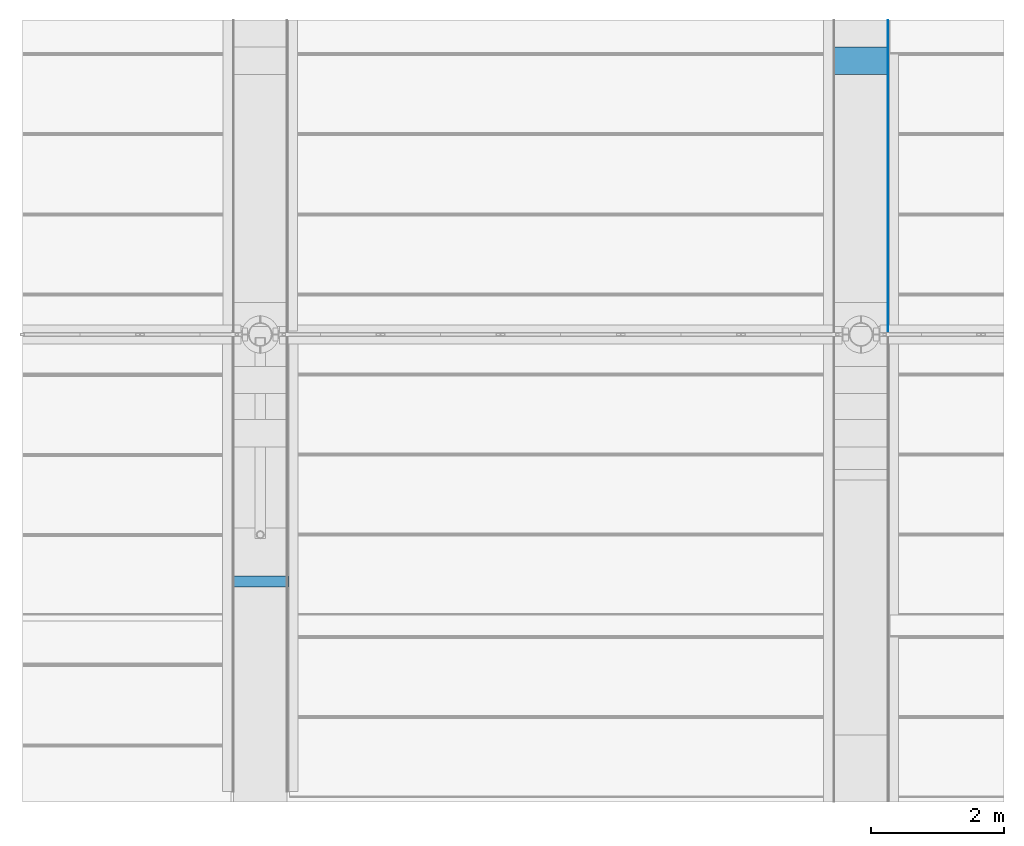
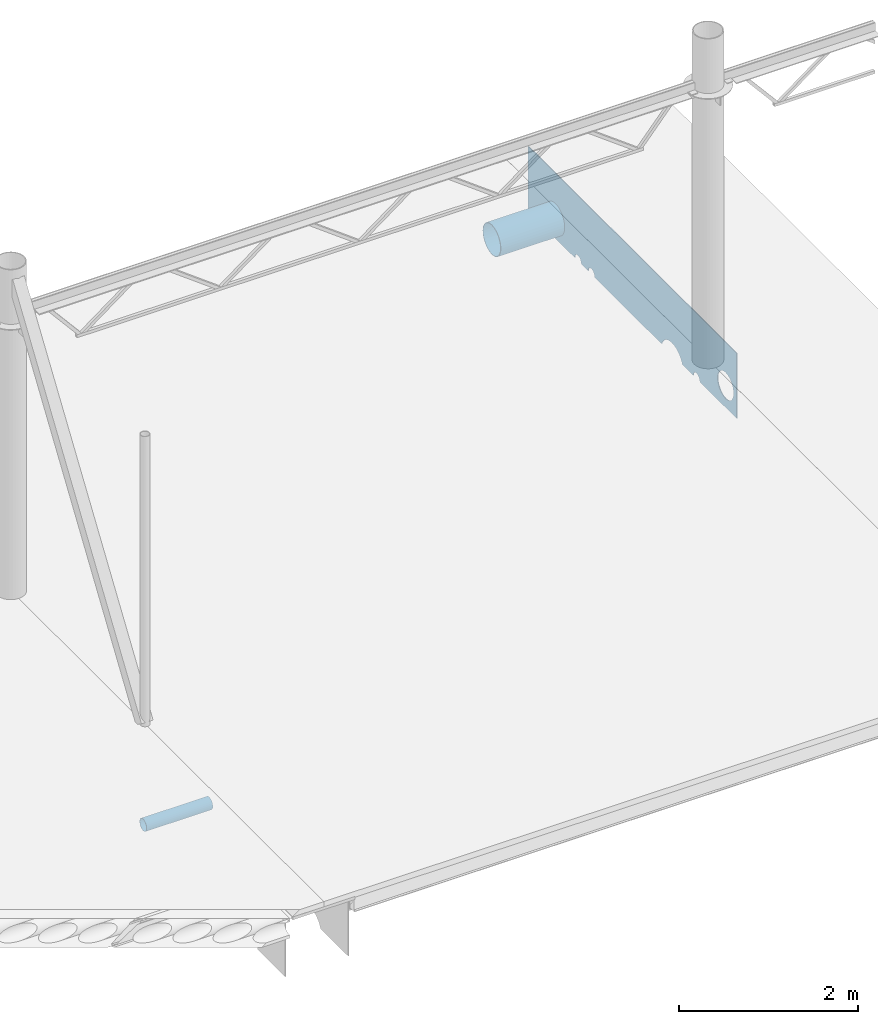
# One storey, part 12 of 21: 3 beams.
"""IFC2X3 building model written with IfcOpenShell, lengths in millimetres."""

from ifc_helpers import new_model, entity, si_unit, converted_unit, derived_unit, direction, frame, origin_with_axes, place, context, subcontext, project, spatial, faceted_brep, material, type_object, element, save


model = new_model("IFC2X3")

# Units and contexts
model_context = context("Model", 3, precision=0.01, world=frame((0.0, 4.29681676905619e-09, 0.0)), true_north=direction((4.01073788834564e-13, 1.0)))
plan_context = context("Plan", 3, precision=0.01, world=frame((0.0, 4.29681676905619e-09, 0.0)), true_north=direction((4.01073788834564e-13, 1.0)))
body_context = subcontext(model_context, "Body", "Model", "MODEL_VIEW")
ifc_project = project(units=[converted_unit("PLANEANGLEUNIT", "DEGREE", entity("IfcPositiveLengthMeasure", 0.0174532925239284), si_unit("PLANEANGLEUNIT", "RADIAN"), dimensions=[0, 0, 0, 0, 0, 0, 0]), si_unit("AREAUNIT", "SQUARE_METRE"), si_unit("LENGTHUNIT", "METRE", prefix="MILLI"), si_unit("MASSUNIT", "GRAM", prefix="KILO"), si_unit("POWERUNIT", "WATT"), si_unit("PRESSUREUNIT", "PASCAL", prefix="KILO"), si_unit("FORCEUNIT", "NEWTON", prefix="KILO"), si_unit("ELECTRICVOLTAGEUNIT", "VOLT"), si_unit("ELECTRICCURRENTUNIT", "AMPERE"), si_unit("THERMODYNAMICTEMPERATUREUNIT", "DEGREE_CELSIUS"), si_unit("TIMEUNIT", "SECOND"), si_unit("VOLUMEUNIT", "CUBIC_METRE"), derived_unit("LINEARVELOCITYUNIT", [(si_unit("LENGTHUNIT", "METRE"), 1), (si_unit("TIMEUNIT", "SECOND"), -1)]), derived_unit("VOLUMETRICFLOWRATEUNIT", [(si_unit("VOLUMEUNIT", "CUBIC_METRE"), 1), (si_unit("TIMEUNIT", "SECOND"), -1)]), derived_unit("THERMALTRANSMITTANCEUNIT", [(si_unit("POWERUNIT", "WATT"), 1), (si_unit("THERMODYNAMICTEMPERATUREUNIT", "KELVIN"), -1), (si_unit("AREAUNIT", "SQUARE_METRE"), -1)]), derived_unit("SOUNDPRESSUREUNIT", [(si_unit("PRESSUREUNIT", "PASCAL"), 1)])], contexts=[model_context, plan_context])

# Site, building, storey
site_placement = place(None, frame((0.0, -4.29681676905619e-09, 0.0), z_axis=(0.0, 0.0, 1.0), x_axis=(1.0, 0.0, 0.0)))
site = spatial("IfcSite", under=ifc_project, at=site_placement, Name="Gardermoen", CompositionType="ELEMENT")
building_placement = place(site_placement, frame((0.0, 4.29681676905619e-09, 0.0), z_axis=(0.0, 0.0, 1.0), x_axis=(1.0, 0.0, 0.0)))
building = spatial("IfcBuilding", under=site, at=building_placement, Name="TS", CompositionType="ELEMENT")
storey_placement = place(building_placement, origin_with_axes())
storey = spatial("IfcBuildingStorey", under=building, at=storey_placement, Name="F", CompositionType="ELEMENT", Elevation=0.0)

# Beams
ifc_material = material(Name="STEEL/S355")
beam_type_1 = type_object("IfcBeamType", Name="O160*3", PredefinedType="NOTDEFINED")
beam_1_placement = place(storey_placement, frame((718427.0, 437800.0, 210070.0), z_axis=(0.0, 0.0, 1.0), x_axis=(-0.999999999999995, -9.99999902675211e-08, 0.0)))
element("IfcBeam", 1, at=beam_1_placement, inside=storey, type_object=beam_type_1, material=ifc_material, Name="STÅLBJELKE", ObjectType="O160*3", context=body_context, shape_type="Brep", body=[
    faceted_brep([(0.0, -77.0, 0.0), (0.0, -74.3762886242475, 19.9290664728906), (854.0, -74.3762886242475, 19.9290664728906), (854.0, -77.0, 0.0), (0.0, -66.6839560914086, 38.5), (854.0, -66.6839560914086, 38.5), (0.0, -54.4472221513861, 54.447222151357), (854.0, -54.4472221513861, 54.447222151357), (0.0, -38.5, 66.6839560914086), (854.0, -38.5, 66.6839560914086), (0.0, -19.9290664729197, 74.3762886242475), (854.0, -19.9290664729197, 74.3762886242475), (0.0, 0.0, 77.0), (854.0, 0.0, 77.0), (0.0, 19.9290664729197, 74.3762886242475), (854.0, 19.9290664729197, 74.3762886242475), (0.0, 38.5, 66.6839560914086), (854.0, 38.5, 66.6839560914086), (0.0, 54.4472221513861, 54.447222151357), (854.0, 54.4472221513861, 54.447222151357), (0.0, 66.6839560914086, 38.5), (854.0, 66.6839560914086, 38.5), (0.0, 74.3762886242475, 19.9290664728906), (854.0, 74.3762886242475, 19.9290664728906), (0.0, 77.0, 0.0), (854.0, 77.0, 0.0), (0.0, 74.3762886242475, -19.9290664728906), (854.0, 74.3762886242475, -19.9290664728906), (0.0, 66.6839560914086, -38.5), (854.0, 66.6839560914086, -38.5), (0.0, 54.4472221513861, -54.447222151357), (854.0, 54.4472221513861, -54.447222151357), (0.0, 38.5, -66.6839560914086), (854.0, 38.5, -66.6839560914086), (0.0, 19.9290664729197, -74.3762886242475), (854.0, 19.9290664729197, -74.3762886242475), (0.0, 0.0, -77.0), (854.0, 0.0, -77.0), (0.0, -19.9290664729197, -74.3762886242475), (854.0, -19.9290664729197, -74.3762886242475), (0.0, -38.5, -66.6839560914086), (854.0, -38.5, -66.6839560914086), (0.0, -54.4472221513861, -54.447222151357), (854.0, -54.4472221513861, -54.447222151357), (0.0, -66.6839560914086, -38.5), (854.0, -66.6839560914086, -38.5), (0.0, -74.3762886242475, -19.9290664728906), (854.0, -74.3762886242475, -19.9290664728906), (0.0, -80.0, 0.0), (0.0, -77.2740661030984, -20.7055236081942), (854.0, -77.2740661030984, -20.7055236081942), (854.0, -80.0, 0.0), (0.0, -69.2820323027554, -40.0), (854.0, -69.2820323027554, -40.0), (0.0, -56.5685424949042, -56.5685424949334), (854.0, -56.5685424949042, -56.5685424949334), (0.0, -40.0, -69.2820323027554), (854.0, -40.0, -69.2820323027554), (0.0, -20.7055236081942, -77.2740661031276), (854.0, -20.7055236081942, -77.2740661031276), (0.0, 0.0, -80.0), (854.0, 0.0, -80.0), (0.0, 20.7055236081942, -77.2740661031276), (854.0, 20.7055236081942, -77.2740661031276), (0.0, 40.0, -69.2820323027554), (854.0, 40.0, -69.2820323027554), (0.0, 56.5685424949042, -56.5685424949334), (854.0, 56.5685424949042, -56.5685424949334), (0.0, 69.2820323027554, -40.0), (854.0, 69.2820323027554, -40.0), (0.0, 77.2740661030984, -20.7055236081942), (854.0, 77.2740661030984, -20.7055236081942), (0.0, 80.0, 0.0), (854.0, 80.0, 0.0), (0.0, 77.2740661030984, 20.7055236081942), (854.0, 77.2740661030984, 20.7055236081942), (0.0, 69.2820323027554, 40.0), (854.0, 69.2820323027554, 40.0), (0.0, 56.5685424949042, 56.5685424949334), (854.0, 56.5685424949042, 56.5685424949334), (0.0, 40.0, 69.2820323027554), (854.0, 40.0, 69.2820323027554), (0.0, 20.7055236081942, 77.2740661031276), (854.0, 20.7055236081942, 77.2740661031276), (0.0, 0.0, 80.0), (854.0, 0.0, 80.0), (0.0, -20.7055236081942, 77.2740661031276), (854.0, -20.7055236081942, 77.2740661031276), (0.0, -40.0, 69.2820323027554), (854.0, -40.0, 69.2820323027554), (0.0, -56.5685424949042, 56.5685424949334), (854.0, -56.5685424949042, 56.5685424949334), (0.0, -69.2820323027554, 40.0), (854.0, -69.2820323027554, 40.0), (0.0, -77.2740661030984, 20.7055236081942), (854.0, -77.2740661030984, 20.7055236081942)], [[[0, 1, 2, 3]], [[1, 4, 5, 2]], [[4, 6, 7, 5]], [[6, 8, 9, 7]], [[8, 10, 11, 9]], [[10, 12, 13, 11]], [[12, 14, 15, 13]], [[14, 16, 17, 15]], [[16, 18, 19, 17]], [[18, 20, 21, 19]], [[20, 22, 23, 21]], [[22, 24, 25, 23]], [[24, 26, 27, 25]], [[26, 28, 29, 27]], [[28, 30, 31, 29]], [[30, 32, 33, 31]], [[32, 34, 35, 33]], [[34, 36, 37, 35]], [[36, 38, 39, 37]], [[38, 40, 41, 39]], [[40, 42, 43, 41]], [[42, 44, 45, 43]], [[44, 46, 47, 45]], [[46, 0, 3, 47]], [[48, 49, 50, 51]], [[49, 52, 53, 50]], [[52, 54, 55, 53]], [[54, 56, 57, 55]], [[56, 58, 59, 57]], [[58, 60, 61, 59]], [[60, 62, 63, 61]], [[62, 64, 65, 63]], [[64, 66, 67, 65]], [[66, 68, 69, 67]], [[68, 70, 71, 69]], [[70, 72, 73, 71]], [[72, 74, 75, 73]], [[74, 76, 77, 75]], [[76, 78, 79, 77]], [[78, 80, 81, 79]], [[80, 82, 83, 81]], [[82, 84, 85, 83]], [[84, 86, 87, 85]], [[86, 88, 89, 87]], [[88, 90, 91, 89]], [[90, 92, 93, 91]], [[92, 94, 95, 93]], [[94, 48, 51, 95]], [[53, 55, 57, 59, 61, 63, 65, 67, 69, 71, 73, 75, 77, 79, 81, 83, 85, 87, 89, 91, 93, 95, 51, 50], [5, 7, 9, 11, 13, 15, 17, 19, 21, 23, 25, 27, 29, 31, 33, 35, 37, 39, 41, 43, 45, 47, 3, 2]], [[94, 92, 90, 88, 86, 84, 82, 80, 78, 76, 74, 72, 70, 68, 66, 64, 62, 60, 58, 56, 54, 52, 49, 48], [46, 44, 42, 40, 38, 36, 34, 32, 30, 28, 26, 24, 22, 20, 18, 16, 14, 12, 10, 8, 6, 4, 1, 0]]]),
])
beam_type_2 = type_object("IfcBeamType", Name="RØR406.4X6.3", PredefinedType="NOTDEFINED")
beam_2_placement = place(storey_placement, frame((727423.0, 445600.0, 210175.0), z_axis=(0.0, 0.0, 1.0), x_axis=(-0.999999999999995, -9.99999902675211e-08, 0.0)))
element("IfcBeam", 2, at=beam_2_placement, inside=storey, type_object=beam_type_2, material=ifc_material, Name="STÅLBJELKE", ObjectType="RØR406.4X6.3", context=body_context, shape_type="Brep", body=[
    faceted_brep([(0.0, -196.900000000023, 0.0), (0.0, -193.908646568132, 34.1913261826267), (846.0, -193.908646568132, 34.1913261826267), (846.0, -196.900000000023, 0.0), (0.0, -185.025477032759, 67.3437662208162), (846.0, -185.025477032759, 67.3437662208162), (0.0, -170.520402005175, 98.4500000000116), (846.0, -170.520402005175, 98.4500000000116), (0.0, -150.834150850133, 126.564880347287), (846.0, -150.834150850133, 126.564880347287), (0.0, -126.564880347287, 150.834150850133), (846.0, -126.564880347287, 150.834150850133), (0.0, -98.4500000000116, 170.520402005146), (846.0, -98.4500000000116, 170.520402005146), (0.0, -67.3437662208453, 185.025477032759), (846.0, -67.3437662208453, 185.025477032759), (0.0, -34.1913261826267, 193.908646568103), (846.0, -34.1913261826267, 193.908646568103), (0.0, 0.0, 196.899999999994), (846.0, 0.0, 196.899999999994), (0.0, 34.1913261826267, 193.908646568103), (846.0, 34.1913261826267, 193.908646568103), (0.0, 67.3437662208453, 185.025477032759), (846.0, 67.3437662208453, 185.025477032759), (0.0, 98.4500000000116, 170.520402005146), (846.0, 98.4500000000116, 170.520402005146), (0.0, 126.564880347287, 150.834150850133), (846.0, 126.564880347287, 150.834150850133), (0.0, 150.834150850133, 126.564880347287), (846.0, 150.834150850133, 126.564880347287), (0.0, 170.520402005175, 98.4500000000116), (846.0, 170.520402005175, 98.4500000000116), (0.0, 185.025477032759, 67.3437662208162), (846.0, 185.025477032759, 67.3437662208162), (0.0, 193.908646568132, 34.1913261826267), (846.0, 193.908646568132, 34.1913261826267), (0.0, 196.900000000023, 0.0), (846.0, 196.900000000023, 0.0), (0.0, 193.908646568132, -34.1913261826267), (846.0, 193.908646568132, -34.1913261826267), (0.0, 185.025477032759, -67.3437662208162), (846.0, 185.025477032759, -67.3437662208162), (0.0, 170.520402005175, -98.4500000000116), (846.0, 170.520402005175, -98.4500000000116), (0.0, 150.834150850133, -126.564880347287), (846.0, 150.834150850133, -126.564880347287), (0.0, 126.564880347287, -150.834150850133), (846.0, 126.564880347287, -150.834150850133), (0.0, 98.4500000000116, -170.520402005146), (846.0, 98.4500000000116, -170.520402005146), (0.0, 67.3437662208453, -185.025477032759), (846.0, 67.3437662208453, -185.025477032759), (0.0, 34.1913261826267, -193.908646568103), (846.0, 34.1913261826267, -193.908646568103), (0.0, 0.0, -196.899999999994), (846.0, 0.0, -196.899999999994), (0.0, -34.1913261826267, -193.908646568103), (846.0, -34.1913261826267, -193.908646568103), (0.0, -67.3437662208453, -185.025477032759), (846.0, -67.3437662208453, -185.025477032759), (0.0, -98.4500000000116, -170.520402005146), (846.0, -98.4500000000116, -170.520402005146), (0.0, -126.564880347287, -150.834150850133), (846.0, -126.564880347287, -150.834150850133), (0.0, -150.834150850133, -126.564880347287), (846.0, -150.834150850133, -126.564880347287), (0.0, -170.520402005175, -98.4500000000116), (846.0, -170.520402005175, -98.4500000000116), (0.0, -185.025477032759, -67.3437662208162), (846.0, -185.025477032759, -67.3437662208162), (0.0, -193.908646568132, -34.1913261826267), (846.0, -193.908646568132, -34.1913261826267), (0.0, -203.200000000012, 0.0), (0.0, -200.112935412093, -35.2853097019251), (846.0, -200.112935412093, -35.2853097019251), (846.0, -203.200000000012, 0.0), (0.0, -190.945540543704, -69.4984931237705), (846.0, -190.945540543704, -69.4984931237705), (0.0, -175.976362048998, -101.600000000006), (846.0, -175.976362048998, -101.600000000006), (0.0, -155.660230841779, -130.614442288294), (846.0, -155.660230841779, -130.614442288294), (0.0, -130.614442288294, -155.660230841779), (846.0, -130.614442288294, -155.660230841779), (0.0, -101.599999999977, -175.976362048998), (846.0, -101.599999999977, -175.976362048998), (0.0, -69.4984931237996, -190.945540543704), (846.0, -69.4984931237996, -190.945540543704), (0.0, -35.2853097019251, -200.112935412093), (846.0, -35.2853097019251, -200.112935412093), (0.0, 0.0, -203.200000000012), (846.0, 0.0, -203.200000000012), (0.0, 35.2853097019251, -200.112935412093), (846.0, 35.2853097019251, -200.112935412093), (0.0, 69.4984931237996, -190.945540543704), (846.0, 69.4984931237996, -190.945540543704), (0.0, 101.599999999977, -175.976362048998), (846.0, 101.599999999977, -175.976362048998), (0.0, 130.614442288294, -155.660230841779), (846.0, 130.614442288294, -155.660230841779), (0.0, 155.660230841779, -130.614442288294), (846.0, 155.660230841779, -130.614442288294), (0.0, 175.976362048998, -101.600000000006), (846.0, 175.976362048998, -101.600000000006), (0.0, 190.945540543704, -69.4984931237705), (846.0, 190.945540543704, -69.4984931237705), (0.0, 200.112935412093, -35.2853097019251), (846.0, 200.112935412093, -35.2853097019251), (0.0, 203.200000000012, 0.0), (846.0, 203.200000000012, 0.0), (0.0, 200.112935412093, 35.2853097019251), (846.0, 200.112935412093, 35.2853097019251), (0.0, 190.945540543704, 69.4984931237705), (846.0, 190.945540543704, 69.4984931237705), (0.0, 175.976362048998, 101.600000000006), (846.0, 175.976362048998, 101.600000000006), (0.0, 155.660230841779, 130.614442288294), (846.0, 155.660230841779, 130.614442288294), (0.0, 130.614442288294, 155.660230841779), (846.0, 130.614442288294, 155.660230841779), (0.0, 101.599999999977, 175.976362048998), (846.0, 101.599999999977, 175.976362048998), (0.0, 69.4984931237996, 190.945540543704), (846.0, 69.4984931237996, 190.945540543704), (0.0, 35.2853097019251, 200.112935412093), (846.0, 35.2853097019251, 200.112935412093), (0.0, 0.0, 203.200000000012), (846.0, 0.0, 203.200000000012), (0.0, -35.2853097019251, 200.112935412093), (846.0, -35.2853097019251, 200.112935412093), (0.0, -69.4984931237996, 190.945540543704), (846.0, -69.4984931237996, 190.945540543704), (0.0, -101.599999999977, 175.976362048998), (846.0, -101.599999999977, 175.976362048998), (0.0, -130.614442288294, 155.660230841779), (846.0, -130.614442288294, 155.660230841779), (0.0, -155.660230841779, 130.614442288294), (846.0, -155.660230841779, 130.614442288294), (0.0, -175.976362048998, 101.600000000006), (846.0, -175.976362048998, 101.600000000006), (0.0, -190.945540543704, 69.4984931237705), (846.0, -190.945540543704, 69.4984931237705), (0.0, -200.112935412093, 35.2853097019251), (846.0, -200.112935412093, 35.2853097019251)], [[[0, 1, 2, 3]], [[1, 4, 5, 2]], [[4, 6, 7, 5]], [[6, 8, 9, 7]], [[8, 10, 11, 9]], [[10, 12, 13, 11]], [[12, 14, 15, 13]], [[14, 16, 17, 15]], [[16, 18, 19, 17]], [[18, 20, 21, 19]], [[20, 22, 23, 21]], [[22, 24, 25, 23]], [[24, 26, 27, 25]], [[26, 28, 29, 27]], [[28, 30, 31, 29]], [[30, 32, 33, 31]], [[32, 34, 35, 33]], [[34, 36, 37, 35]], [[36, 38, 39, 37]], [[38, 40, 41, 39]], [[40, 42, 43, 41]], [[42, 44, 45, 43]], [[44, 46, 47, 45]], [[46, 48, 49, 47]], [[48, 50, 51, 49]], [[50, 52, 53, 51]], [[52, 54, 55, 53]], [[54, 56, 57, 55]], [[56, 58, 59, 57]], [[58, 60, 61, 59]], [[60, 62, 63, 61]], [[62, 64, 65, 63]], [[64, 66, 67, 65]], [[66, 68, 69, 67]], [[68, 70, 71, 69]], [[70, 0, 3, 71]], [[72, 73, 74, 75]], [[73, 76, 77, 74]], [[76, 78, 79, 77]], [[78, 80, 81, 79]], [[80, 82, 83, 81]], [[82, 84, 85, 83]], [[84, 86, 87, 85]], [[86, 88, 89, 87]], [[88, 90, 91, 89]], [[90, 92, 93, 91]], [[92, 94, 95, 93]], [[94, 96, 97, 95]], [[96, 98, 99, 97]], [[98, 100, 101, 99]], [[100, 102, 103, 101]], [[102, 104, 105, 103]], [[104, 106, 107, 105]], [[106, 108, 109, 107]], [[108, 110, 111, 109]], [[110, 112, 113, 111]], [[112, 114, 115, 113]], [[114, 116, 117, 115]], [[116, 118, 119, 117]], [[118, 120, 121, 119]], [[120, 122, 123, 121]], [[122, 124, 125, 123]], [[124, 126, 127, 125]], [[126, 128, 129, 127]], [[128, 130, 131, 129]], [[130, 132, 133, 131]], [[132, 134, 135, 133]], [[134, 136, 137, 135]], [[136, 138, 139, 137]], [[138, 140, 141, 139]], [[140, 142, 143, 141]], [[142, 72, 75, 143]], [[77, 79, 81, 83, 85, 87, 89, 91, 93, 95, 97, 99, 101, 103, 105, 107, 109, 111, 113, 115, 117, 119, 121, 123, 125, 127, 129, 131, 133, 135, 137, 139, 141, 143, 75, 74], [5, 7, 9, 11, 13, 15, 17, 19, 21, 23, 25, 27, 29, 31, 33, 35, 37, 39, 41, 43, 45, 47, 49, 51, 53, 55, 57, 59, 61, 63, 65, 67, 69, 71, 3, 2]], [[142, 140, 138, 136, 134, 132, 130, 128, 126, 124, 122, 120, 118, 116, 114, 112, 110, 108, 106, 104, 102, 100, 98, 96, 94, 92, 90, 88, 86, 84, 82, 80, 78, 76, 73, 72], [70, 68, 66, 64, 62, 60, 58, 56, 54, 52, 50, 48, 46, 44, 42, 40, 38, 36, 34, 32, 30, 28, 26, 24, 22, 20, 18, 16, 14, 12, 10, 8, 6, 4, 1, 0]]]),
])
beam_type_3 = type_object("IfcBeamType", Name="1470*10", PredefinedType="NOTDEFINED")
beam_3_placement = place(storey_placement, frame((727405.0, 441550.0, 210055.0), z_axis=(0.0, 0.0, 1.0), x_axis=(0.0, 1.0, 0.0)))
element("IfcBeam", 3, at=beam_3_placement, inside=storey, type_object=beam_type_3, Name="STÅLBJELKE", ObjectType="1470*10", context=body_context, shape_type="Brep", body=[
    faceted_brep([(4661.4244638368, 5.0, 735.0), (4661.4244638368, -5.0, 735.0), (0.0, -5.0, 735.0), (0.0, 5.0, 735.0), (0.0, -5.0, -155.0), (0.0, 5.0, -155.0), (428.5, -5.0, 145.0), (428.5, 5.0, 145.0), (425.070172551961, 5.0, 179.823622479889), (425.070172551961, -5.0, 179.823622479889), (425.070172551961, -5.0, 110.176377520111), (425.070172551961, 5.0, 110.176377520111), (414.912496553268, -5.0, 76.6910073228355), (414.912496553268, 5.0, 76.6910073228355), (398.417325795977, -5.0, 45.8307134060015), (398.417325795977, 5.0, 45.8307134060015), (376.218560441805, -5.0, 18.7814395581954), (376.218560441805, 5.0, 18.7814395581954), (349.169286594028, -5.0, -3.41732579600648), (349.169286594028, 5.0, -3.41732579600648), (318.308992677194, -5.0, -19.9124965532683), (318.308992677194, 5.0, -19.9124965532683), (284.82362247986, -5.0, -30.0701725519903), (284.82362247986, 5.0, -30.0701725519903), (250.0, -5.0, -33.5), (250.0, 5.0, -33.5), (215.17637752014, -5.0, -30.0701725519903), (215.17637752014, 5.0, -30.0701725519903), (181.691007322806, -5.0, -19.9124965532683), (181.691007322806, 5.0, -19.9124965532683), (150.830713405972, -5.0, -3.41732579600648), (150.830713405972, 5.0, -3.41732579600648), (123.781439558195, -5.0, 18.7814395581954), (123.781439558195, 5.0, 18.7814395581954), (101.582674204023, -5.0, 45.8307134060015), (101.582674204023, 5.0, 45.8307134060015), (85.0875034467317, -5.0, 76.6910073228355), (85.0875034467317, 5.0, 76.6910073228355), (74.9298274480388, -5.0, 110.176377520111), (74.9298274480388, 5.0, 110.176377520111), (71.5, -5.0, 145.0), (71.5, 5.0, 145.0), (74.9298274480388, -5.0, 179.823622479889), (74.9298274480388, 5.0, 179.823622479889), (85.0875034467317, -5.0, 213.308992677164), (85.0875034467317, 5.0, 213.308992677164), (101.582674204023, -5.0, 244.169286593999), (101.582674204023, 5.0, 244.169286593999), (123.781439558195, -5.0, 271.218560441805), (123.781439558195, 5.0, 271.218560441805), (150.830713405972, -5.0, 293.417325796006), (150.830713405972, 5.0, 293.417325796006), (181.691007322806, -5.0, 309.912496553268), (181.691007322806, 5.0, 309.912496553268), (215.17637752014, -5.0, 320.07017255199), (215.17637752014, 5.0, 320.07017255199), (250.0, -5.0, 323.5), (250.0, 5.0, 323.5), (284.82362247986, -5.0, 320.07017255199), (284.82362247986, 5.0, 320.07017255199), (318.308992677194, -5.0, 309.912496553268), (318.308992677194, 5.0, 309.912496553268), (349.169286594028, -5.0, 293.417325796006), (349.169286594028, 5.0, 293.417325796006), (376.218560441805, -5.0, 271.218560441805), (376.218560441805, 5.0, 271.218560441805), (398.417325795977, -5.0, 244.169286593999), (398.417325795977, 5.0, 244.169286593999), (414.912496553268, -5.0, 213.308992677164), (414.912496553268, 5.0, 213.308992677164), (975.0, -5.0, -155.0), (975.0, 5.0, -155.0), (972.44443697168, 5.0, -135.588571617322), (972.44443697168, -5.0, -135.588571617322), (827.55556302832, -5.0, -135.588571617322), (827.55556302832, 5.0, -135.588571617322), (825.0, 5.0, -155.0), (825.0, -5.0, -155.0), (835.048094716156, -5.0, -117.5), (835.048094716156, 5.0, -117.5), (846.966991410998, -5.0, -101.966991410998), (846.966991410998, 5.0, -101.966991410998), (862.5, -5.0, -90.0480947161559), (862.5, 5.0, -90.0480947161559), (880.588571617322, -5.0, -82.5555630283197), (880.588571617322, 5.0, -82.5555630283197), (900.0, -5.0, -80.0), (900.0, 5.0, -80.0), (919.411428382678, -5.0, -82.5555630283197), (919.411428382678, 5.0, -82.5555630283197), (937.5, -5.0, -90.0480947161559), (937.5, 5.0, -90.0480947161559), (953.033008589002, -5.0, -101.966991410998), (953.033008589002, 5.0, -101.966991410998), (964.951905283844, -5.0, -117.5), (964.951905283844, 5.0, -117.5), (1216.26219191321, 5.0, -155.0), (1216.26219191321, -5.0, -155.0), (1222.79333633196, -5.0, -139.23242256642), (1222.79333633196, 5.0, -139.23242256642), (1243.70066643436, -5.0, -105.114760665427), (1243.70066643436, 5.0, -105.114760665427), (1269.68777079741, -5.0, -74.6877707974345), (1269.68777079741, 5.0, -74.6877707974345), (1300.1147606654, -5.0, -48.7006664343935), (1300.1147606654, 5.0, -48.7006664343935), (1334.23242256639, -5.0, -27.7933363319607), (1334.23242256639, 5.0, -27.7933363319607), (1371.20066643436, -5.0, -12.4805883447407), (1371.20066643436, 5.0, -12.4805883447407), (1410.10921141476, -5.0, -3.13947314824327), (1410.10921141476, 5.0, -3.13947314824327), (1450.0, -5.0, 0.0), (1450.0, 5.0, 0.0), (1489.89078858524, -5.0, -3.13947314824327), (1489.89078858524, 5.0, -3.13947314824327), (1528.79933356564, -5.0, -12.4805883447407), (1528.79933356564, 5.0, -12.4805883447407), (1565.76757743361, -5.0, -27.7933363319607), (1565.76757743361, 5.0, -27.7933363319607), (1599.8852393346, -5.0, -48.7006664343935), (1599.8852393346, 5.0, -48.7006664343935), (1630.31222920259, -5.0, -74.6877707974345), (1630.31222920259, 5.0, -74.6877707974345), (1656.29933356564, -5.0, -105.114760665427), (1656.29933356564, 5.0, -105.114760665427), (1677.20666366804, -5.0, -139.23242256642), (1677.20666366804, 5.0, -139.23242256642), (1683.73780808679, -5.0, -155.0), (1683.73780808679, 5.0, -155.0), (3325.0, -5.0, -155.0), (3325.0, 5.0, -155.0), (3322.44443697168, 5.0, -135.588571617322), (3322.44443697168, -5.0, -135.588571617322), (3177.55556302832, -5.0, -135.588571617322), (3177.55556302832, 5.0, -135.588571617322), (3175.0, 5.0, -155.0), (3175.0, -5.0, -155.0), (3185.04809471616, -5.0, -117.5), (3185.04809471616, 5.0, -117.5), (3196.966991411, -5.0, -101.966991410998), (3196.966991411, 5.0, -101.966991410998), (3212.5, -5.0, -90.0480947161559), (3212.5, 5.0, -90.0480947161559), (3230.58857161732, -5.0, -82.5555630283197), (3230.58857161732, 5.0, -82.5555630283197), (3250.0, -5.0, -80.0), (3250.0, 5.0, -80.0), (3269.41142838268, -5.0, -82.5555630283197), (3269.41142838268, 5.0, -82.5555630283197), (3287.5, -5.0, -90.0480947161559), (3287.5, 5.0, -90.0480947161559), (3303.033008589, -5.0, -101.966991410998), (3303.033008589, 5.0, -101.966991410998), (3314.95190528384, -5.0, -117.5), (3314.95190528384, 5.0, -117.5), (3625.0, -5.0, -155.0), (3625.0, 5.0, -155.0), (3622.44443697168, 5.0, -135.588571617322), (3622.44443697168, -5.0, -135.588571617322), (3477.55556302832, -5.0, -135.588571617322), (3477.55556302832, 5.0, -135.588571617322), (3475.0, 5.0, -155.0), (3475.0, -5.0, -155.0), (3485.04809471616, -5.0, -117.5), (3485.04809471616, 5.0, -117.5), (3496.966991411, -5.0, -101.966991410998), (3496.966991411, 5.0, -101.966991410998), (3512.5, -5.0, -90.0480947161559), (3512.5, 5.0, -90.0480947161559), (3530.58857161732, -5.0, -82.5555630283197), (3530.58857161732, 5.0, -82.5555630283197), (3550.0, -5.0, -80.0), (3550.0, 5.0, -80.0), (3569.41142838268, -5.0, -82.5555630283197), (3569.41142838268, 5.0, -82.5555630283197), (3587.5, -5.0, -90.0480947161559), (3587.5, 5.0, -90.0480947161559), (3603.033008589, -5.0, -101.966991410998), (3603.033008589, 5.0, -101.966991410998), (3614.95190528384, -5.0, -117.5), (3614.95190528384, 5.0, -117.5), (4254.0, -5.0, 120.0), (4254.0, 5.0, 120.0), (4250.90078161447, 5.0, 155.424228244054), (4250.90078161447, -5.0, 155.424228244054), (4250.90078161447, -5.0, 84.5757717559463), (4250.90078161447, 5.0, 84.5757717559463), (4241.69729464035, -5.0, 50.2278907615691), (4241.69729464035, 5.0, 50.2278907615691), (4226.66918237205, -5.0, 18.0), (4226.66918237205, 5.0, 18.0), (4206.27306639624, -5.0, -11.1286723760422), (4206.27306639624, 5.0, -11.1286723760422), (4181.12867237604, -5.0, -36.273066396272), (4181.12867237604, 5.0, -36.273066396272), (4152.0, -5.0, -56.6691823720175), (4152.0, 5.0, -56.6691823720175), (4119.77210923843, -5.0, -71.6972946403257), (4119.77210923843, 5.0, -71.6972946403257), (4085.42422824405, -5.0, -80.9007816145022), (4085.42422824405, 5.0, -80.9007816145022), (4050.0, -5.0, -84.0), (4050.0, 5.0, -84.0), (4014.57577175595, -5.0, -80.9007816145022), (4014.57577175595, 5.0, -80.9007816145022), (3980.22789076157, -5.0, -71.6972946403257), (3980.22789076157, 5.0, -71.6972946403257), (3948.0, -5.0, -56.6691823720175), (3948.0, 5.0, -56.6691823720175), (3918.87132762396, -5.0, -36.273066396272), (3918.87132762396, 5.0, -36.273066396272), (3893.72693360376, -5.0, -11.1286723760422), (3893.72693360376, 5.0, -11.1286723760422), (3873.33081762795, -5.0, 18.0), (3873.33081762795, 5.0, 18.0), (3858.3027053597, -5.0, 50.2278907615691), (3858.3027053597, 5.0, 50.2278907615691), (3849.09921838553, -5.0, 84.5757717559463), (3849.09921838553, 5.0, 84.5757717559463), (3846.0, -5.0, 120.0), (3846.0, 5.0, 120.0), (3849.09921838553, -5.0, 155.424228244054), (3849.09921838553, 5.0, 155.424228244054), (3858.3027053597, -5.0, 189.772109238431), (3858.3027053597, 5.0, 189.772109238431), (3873.33081762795, -5.0, 222.0), (3873.33081762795, 5.0, 222.0), (3893.72693360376, -5.0, 251.128672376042), (3893.72693360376, 5.0, 251.128672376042), (3918.87132762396, -5.0, 276.273066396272), (3918.87132762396, 5.0, 276.273066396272), (3948.0, -5.0, 296.669182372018), (3948.0, 5.0, 296.669182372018), (3980.22789076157, -5.0, 311.697294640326), (3980.22789076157, 5.0, 311.697294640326), (4014.57577175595, -5.0, 320.900781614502), (4014.57577175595, 5.0, 320.900781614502), (4050.0, -5.0, 324.0), (4050.0, 5.0, 324.0), (4085.42422824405, -5.0, 320.900781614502), (4085.42422824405, 5.0, 320.900781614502), (4119.77210923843, -5.0, 311.697294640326), (4119.77210923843, 5.0, 311.697294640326), (4152.0, -5.0, 296.669182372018), (4152.0, 5.0, 296.669182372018), (4181.12867237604, -5.0, 276.273066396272), (4181.12867237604, 5.0, 276.273066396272), (4206.27306639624, -5.0, 251.128672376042), (4206.27306639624, 5.0, 251.128672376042), (4226.66918237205, -5.0, 222.0), (4226.66918237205, 5.0, 222.0), (4241.69729464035, -5.0, 189.772109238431), (4241.69729464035, 5.0, 189.772109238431), (4661.4244638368, -5.0, -155.0), (4661.4244638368, 5.0, -155.0)], [[[0, 1, 2, 3]], [[4, 5, 3, 2]], [[6, 7, 8, 9]], [[10, 11, 7, 6]], [[12, 13, 11, 10]], [[14, 15, 13, 12]], [[16, 17, 15, 14]], [[18, 19, 17, 16]], [[20, 21, 19, 18]], [[22, 23, 21, 20]], [[24, 25, 23, 22]], [[26, 27, 25, 24]], [[28, 29, 27, 26]], [[30, 31, 29, 28]], [[32, 33, 31, 30]], [[34, 35, 33, 32]], [[36, 37, 35, 34]], [[38, 39, 37, 36]], [[40, 41, 39, 38]], [[42, 43, 41, 40]], [[44, 45, 43, 42]], [[46, 47, 45, 44]], [[48, 49, 47, 46]], [[50, 51, 49, 48]], [[52, 53, 51, 50]], [[54, 55, 53, 52]], [[56, 57, 55, 54]], [[58, 59, 57, 56]], [[60, 61, 59, 58]], [[62, 63, 61, 60]], [[64, 65, 63, 62]], [[66, 67, 65, 64]], [[68, 69, 67, 66]], [[9, 8, 69, 68]], [[70, 71, 72, 73]], [[74, 75, 76, 77]], [[78, 79, 75, 74]], [[80, 81, 79, 78]], [[82, 83, 81, 80]], [[84, 85, 83, 82]], [[86, 87, 85, 84]], [[88, 89, 87, 86]], [[90, 91, 89, 88]], [[92, 93, 91, 90]], [[94, 95, 93, 92]], [[73, 72, 95, 94]], [[96, 97, 98, 99]], [[100, 101, 99, 98]], [[102, 103, 101, 100]], [[104, 105, 103, 102]], [[106, 107, 105, 104]], [[108, 109, 107, 106]], [[110, 111, 109, 108]], [[112, 113, 111, 110]], [[114, 115, 113, 112]], [[116, 117, 115, 114]], [[118, 119, 117, 116]], [[120, 121, 119, 118]], [[122, 123, 121, 120]], [[124, 125, 123, 122]], [[126, 127, 125, 124]], [[128, 129, 127, 126]], [[130, 131, 132, 133]], [[134, 135, 136, 137]], [[138, 139, 135, 134]], [[140, 141, 139, 138]], [[142, 143, 141, 140]], [[144, 145, 143, 142]], [[146, 147, 145, 144]], [[148, 149, 147, 146]], [[150, 151, 149, 148]], [[152, 153, 151, 150]], [[154, 155, 153, 152]], [[133, 132, 155, 154]], [[156, 157, 158, 159]], [[160, 161, 162, 163]], [[164, 165, 161, 160]], [[166, 167, 165, 164]], [[168, 169, 167, 166]], [[170, 171, 169, 168]], [[172, 173, 171, 170]], [[174, 175, 173, 172]], [[176, 177, 175, 174]], [[178, 179, 177, 176]], [[180, 181, 179, 178]], [[159, 158, 181, 180]], [[182, 183, 184, 185]], [[186, 187, 183, 182]], [[188, 189, 187, 186]], [[190, 191, 189, 188]], [[192, 193, 191, 190]], [[194, 195, 193, 192]], [[196, 197, 195, 194]], [[198, 199, 197, 196]], [[200, 201, 199, 198]], [[202, 203, 201, 200]], [[204, 205, 203, 202]], [[206, 207, 205, 204]], [[208, 209, 207, 206]], [[210, 211, 209, 208]], [[212, 213, 211, 210]], [[214, 215, 213, 212]], [[216, 217, 215, 214]], [[218, 219, 217, 216]], [[220, 221, 219, 218]], [[222, 223, 221, 220]], [[224, 225, 223, 222]], [[226, 227, 225, 224]], [[228, 229, 227, 226]], [[230, 231, 229, 228]], [[232, 233, 231, 230]], [[234, 235, 233, 232]], [[236, 237, 235, 234]], [[238, 239, 237, 236]], [[240, 241, 239, 238]], [[242, 243, 241, 240]], [[244, 245, 243, 242]], [[246, 247, 245, 244]], [[248, 249, 247, 246]], [[250, 251, 249, 248]], [[252, 253, 251, 250]], [[185, 184, 253, 252]], [[1, 254, 156, 159, 180, 178, 176, 174, 172, 170, 168, 166, 164, 160, 163, 130, 133, 154, 152, 150, 148, 146, 144, 142, 140, 138, 134, 137, 128, 126, 124, 122, 120, 118, 116, 114, 112, 110, 108, 106, 104, 102, 100, 98, 97, 70, 73, 94, 92, 90, 88, 86, 84, 82, 80, 78, 74, 77, 4, 2], [186, 182, 185, 252, 250, 248, 246, 244, 242, 240, 238, 236, 234, 232, 230, 228, 226, 224, 222, 220, 218, 216, 214, 212, 210, 208, 206, 204, 202, 200, 198, 196, 194, 192, 190, 188], [10, 6, 9, 68, 66, 64, 62, 60, 58, 56, 54, 52, 50, 48, 46, 44, 42, 40, 38, 36, 34, 32, 30, 28, 26, 24, 22, 20, 18, 16, 14, 12]], [[5, 76, 75, 79, 81, 83, 85, 87, 89, 91, 93, 95, 72, 71, 96, 99, 101, 103, 105, 107, 109, 111, 113, 115, 117, 119, 121, 123, 125, 127, 129, 136, 135, 139, 141, 143, 145, 147, 149, 151, 153, 155, 132, 131, 162, 161, 165, 167, 169, 171, 173, 175, 177, 179, 181, 158, 157, 255, 0, 3], [184, 183, 187, 189, 191, 193, 195, 197, 199, 201, 203, 205, 207, 209, 211, 213, 215, 217, 219, 221, 223, 225, 227, 229, 231, 233, 235, 237, 239, 241, 243, 245, 247, 249, 251, 253], [8, 7, 11, 13, 15, 17, 19, 21, 23, 25, 27, 29, 31, 33, 35, 37, 39, 41, 43, 45, 47, 49, 51, 53, 55, 57, 59, 61, 63, 65, 67, 69]], [[254, 1, 0, 255]], [[255, 157, 156, 254]], [[77, 76, 5, 4]], [[97, 96, 71, 70]], [[137, 136, 129, 128]], [[163, 162, 131, 130]]], orient=[[False], [False], [False], [False], [False], [False], [False], [False], [False], [False], [False], [False], [False], [False], [False], [False], [False], [False], [False], [False], [False], [False], [False], [False], [False], [False], [False], [False], [False], [False], [False], [False], [False], [False], [False], [False], [False], [False], [False], [False], [False], [False], [False], [False], [False], [False], [False], [False], [False], [False], [False], [False], [False], [False], [False], [False], [False], [False], [False], [False], [False], [False], [False], [False], [False], [False], [False], [False], [False], [False], [False], [False], [False], [False], [False], [False], [False], [False], [False], [False], [False], [False], [False], [False], [False], [False], [False], [False], [False], [False], [False], [False], [False], [False], [False], [False], [False], [False], [False], [False], [False], [False], [False], [False], [False], [False], [False], [False], [False], [False], [False], [False], [False], [False], [False], [False], [False], [False], [False], [False], [False], [False], [False, False, False], [False, False, False], [False], [False], [False], [False], [False], [False]]),
])

save(model, "model.ifc")
